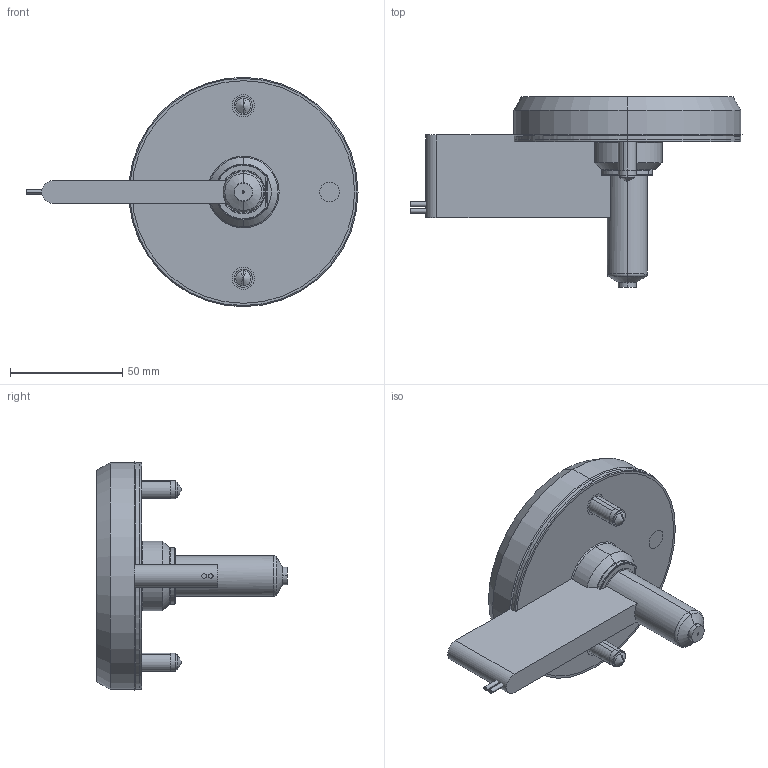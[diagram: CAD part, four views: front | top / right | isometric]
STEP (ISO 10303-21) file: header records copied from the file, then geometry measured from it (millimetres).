
FILE_DESCRIPTION (( 'STEP AP214' ), '1' );
FILE_NAME ('SOHSB4050-SOFBOP04.STEP', '2024-11-28T12:58:44', ( '' ), ( '' ), 'SwSTEP 2.0', 'SolidWorks 2022', '' );
FILE_SCHEMA (( 'AUTOMOTIVE_DESIGN' ));
Length unit declared in the file: millimetre
Products named in the file (11): socket head cap screw_iso_ISO 4762 M8 x 25 - 25N; EcoONE-HSB-04-Open Gate Cut-out Details_Sprue Gate or Full Body Gate; EcoONE-HSB04-04006(A)_SONHC04; EcoONE-HSB04-04004(A)_SONH10047; EcoONE-HSBPoint Gate Needle Tip-Standard_SOPGN0401; EcoONE-HSBOpen Gate Full Body Retainer Tip_SOFRT0401; EcoONE-HSB04-04005(A)_SOTC10200-J; EcoONE-HSB04-04003(A)_SOHSBNB4050; SOHSB4050-SOFBOP04; EcoONE-HSB04-00002(A)_SOHSBLR04; EcoONE-HSB04-Open Gate Full Body Standad Tip Assembly_SOFBOP04
Assembly tree (12 placements, depth 3):
  SOHSB4050-SOFBOP04
    EcoONE-HSB04-04003(A)_SOHSBNB4050
    EcoONE-HSB04-04004(A)_SONH10047
    EcoONE-HSB04-04005(A)_SOTC10200-J
    EcoONE-HSB04-04006(A)_SONHC04  x2
    EcoONE-HSB04-00002(A)_SOHSBLR04
    socket head cap screw_iso_ISO 4762 M8 x 25 - 25N  x2
    EcoONE-HSB04-Open Gate Full Body Standad Tip Assembly_SOFBOP04
      EcoONE-HSBOpen Gate Full Body Retainer Tip_SOFRT0401
      EcoONE-HSBPoint Gate Needle Tip-Standard_SOPGN0401
    EcoONE-HSB-04-Open Gate Cut-out Details_Sprue Gate or Full Body Gate
Bounding box: 148.2 x 85 x 102.4 mm (x, y, z)
Volume: 219436.3 mm3; surface area: 66736.3 mm2
Topology: 11 solids, 11 shells, 512 faces, 1279 edges, 800 vertices
Faces by surface type: cylinder 155, plane 137, bspline 97, cone 85, torus 30, sphere 8
Entity records: 25741 total; most frequent: CARTESIAN_POINT 14344, ORIENTED_EDGE 2334, DIRECTION 1996, EDGE_CURVE 1167, AXIS2_PLACEMENT_3D 806, VERTEX_POINT 737, EDGE_LOOP 508, FACE_OUTER_BOUND 469
